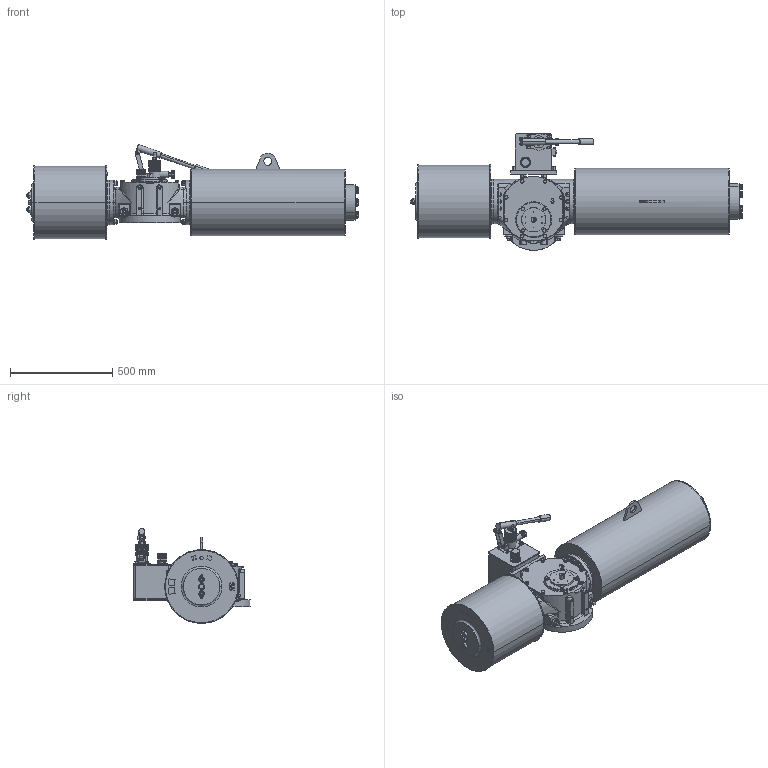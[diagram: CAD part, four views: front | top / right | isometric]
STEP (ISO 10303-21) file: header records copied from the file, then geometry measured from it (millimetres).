
FILE_DESCRIPTION (( 'STEP AP203' ), '1' );
FILE_NAME ('VTS3-350-SR-MH-FC.STEP', '2023-01-01T08:57:09', ( '' ), ( '' ), 'SwSTEP 2.0', 'SolidWorks 2020', '' );
FILE_SCHEMA (( 'CONFIG_CONTROL_DESIGN' ));
Length unit declared in the file: millimetre
Products named in the file (1): VTS3-350-SR-MH-FC
Bounding box: 1627.38 x 571.9 x 465.27 mm (x, y, z)
Volume: 123993743.2 mm3; surface area: 3117673.5 mm2
Topology: 54 solids, 55 shells, 2777 faces, 6883 edges, 4335 vertices
Faces by surface type: plane 1118, cylinder 932, cone 552, bspline 141, torus 34
Entity records: 98906 total; most frequent: CARTESIAN_POINT 33738, DIRECTION 13646, ORIENTED_EDGE 13584, EDGE_CURVE 6792, AXIS2_PLACEMENT_3D 5369, VERTEX_POINT 4335, EDGE_LOOP 3127, VECTOR 2908
